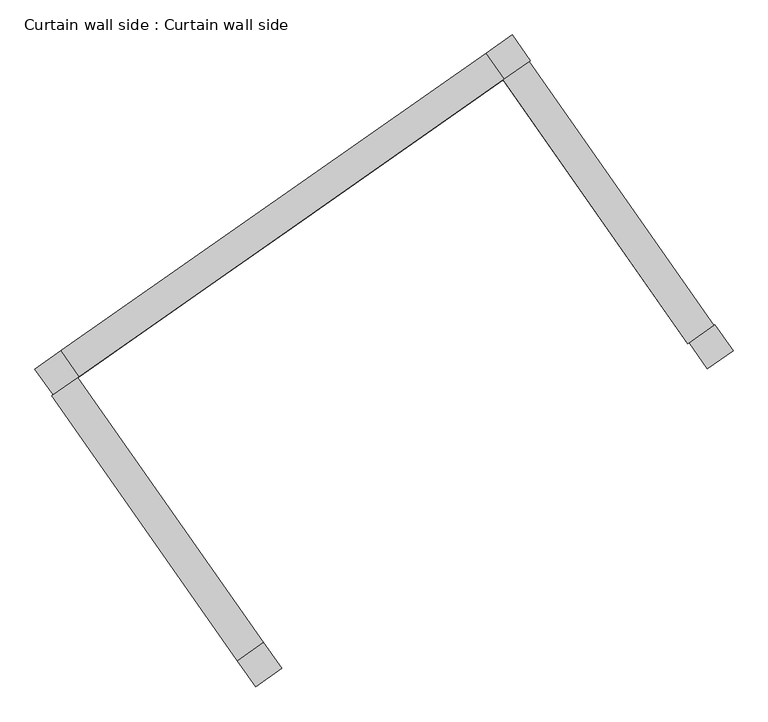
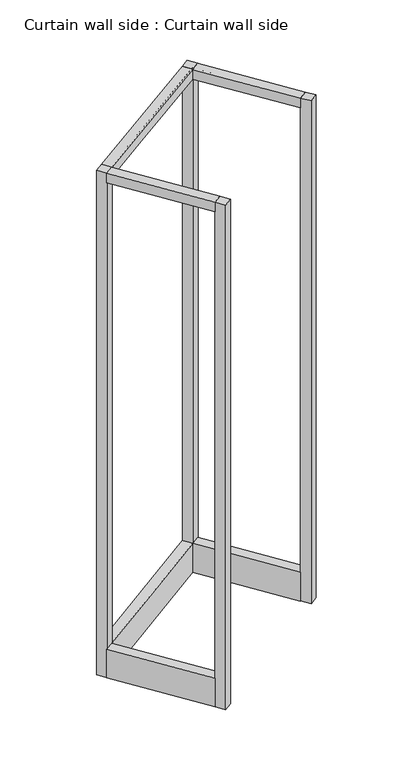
"""IFC4 building model written with IfcOpenShell, lengths in millimetres: furniture geometry, Curtain wall side : Curtain wall side."""

from ifc_helpers import new_model, si_unit, frame, origin, origin_with_axes, place, context, project, spatial, polyline, outline, extrude, faceted_brep, source, transform, mapped, element, save


def curtain_wall_side_curtain_wall_side_cf0fcddf(model_context):
    return source(origin(), model_context, "Body", "SolidModel", [
        extrude(outline(polyline([(-9976.9898235, 13033.7598694), (-9936.0322213, 13062.4386912), (-9642.9626534, 12643.891972), (-9683.9202556, 12615.2131501), (-9976.9898235, 13033.7598694)])), origin_with_axes(), (0.0, 0.0, 1.0), 150.0),
        extrude(outline(polyline([(-9264.1881249, 13532.868992), (-9223.2305226, 13561.5478138), (-8931.3840176, 13144.7478094), (-8972.3416198, 13116.0689876), (-9264.1881249, 13532.868992)])), origin_with_axes(), (0.0, 0.0, 1.0), 150.0),
        extrude(outline(polyline([(-9683.9202556, 12615.2131501), (-9976.9898235, 13033.7598694), (-9936.0322213, 13062.4386912), (-9642.9626534, 12643.891972), (-9683.9202556, 12615.2131501)])), frame((0.0, 0.0, 2585.9192237), z_axis=(0.0, 0.0, 1.0), x_axis=(1.0, 0.0, 0.0)), (0.0, 0.0, 1.0), 50.0),
        extrude(outline(polyline([(374.7078115, 0.0), (424.7078115, 0.0), (424.7137747, -508.818854), (374.7137747, -508.818854), (374.7078115, 0.0)])), frame((-9264.1881249, 13532.868992, 3000.0), z_axis=(0.8191520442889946, 0.5735764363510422, 0.0), x_axis=(0.0, 0.0, -1.0)), (0.0, 0.0, 1.0), 50.0),
        faceted_brep([(-9962.9928546, 13104.5993819, 0.0), (-9934.3140328, 13063.6417797, 0.0), (-9975.271635, 13034.9629579, 0.0), (-10003.9504568, 13075.9205601, 0.0), (-10003.9504568, 13075.9205601, 2635.1571155), (-9962.9928546, 13104.5993819, 2634.6109091), (-9975.271635, 13034.9629579, 150.0), (-9975.271635, 13034.9629579, 2585.9192237), (-9975.271635, 13034.9629579, 2635.1565295), (-9934.3140328, 13063.6417797, 150.0), (-9934.3140328, 13063.6417797, 2585.9192237), (-9934.3140328, 13063.6417797, 2634.6103232)], [[[0, 1, 2, 3]], [[0, 3, 4, 5]], [[3, 2, 6, 7, 8, 4]], [[2, 1, 9, 10, 11, 8, 7, 6]], [[1, 0, 5, 11, 10, 9]], [[5, 4, 8, 11]]]),
        faceted_brep([(-9250.191156, 13603.7085046, 0.0), (-9221.5123341, 13562.7509024, 0.0), (-9262.4699364, 13534.0720806, 0.0), (-9291.1487582, 13575.0296828, 0.0), (-9291.1487582, 13575.0296828, 2625.6512663), (-9250.191156, 13603.7085046, 2625.10506), (-9262.4699364, 13534.0720806, 150.0), (-9262.4699364, 13534.0720806, 2575.2921885), (-9262.4699364, 13534.0720806, 2625.2921885), (-9262.4699364, 13534.0720806, 2625.6506803), (-9221.5123341, 13562.7509024, 150.0), (-9221.5123341, 13562.7509024, 2575.2921885), (-9221.5123341, 13562.7509024, 2625.104474), (-9235.5882199, 13552.894861, 2625.2921885)], [[[0, 1, 2, 3]], [[0, 3, 4, 5]], [[3, 2, 6, 7, 8, 9, 4]], [[2, 1, 10, 11, 12, 13, 9, 8, 7, 6]], [[1, 0, 5, 12, 11, 10]], [[5, 4, 9, 13, 12]]]),
        faceted_brep([(-8929.6658291, 13145.9508979, 0.0), (-8900.9870073, 13104.9932957, 0.0), (-8941.9446095, 13076.3144739, 0.0), (-8970.6234313, 13117.2720761, 0.0), (-8970.6234313, 13117.2720761, 150.0), (-8970.6234313, 13117.2720761, 2575.2862253), (-8970.6234313, 13117.2720761, 2625.2862253), (-8970.6234313, 13117.2720761, 2625.644717), (-8943.7417149, 13136.0948566, 2625.2862253), (-8929.6658291, 13145.9508979, 2625.0985107), (-8929.6658291, 13145.9508979, 2575.2862253), (-8929.6658291, 13145.9508979, 150.0), (-8941.9446095, 13076.3144739, 2625.6441311), (-8900.9870073, 13104.9932957, 2625.0979247)], [[[0, 1, 2, 3]], [[0, 3, 4, 5, 6, 7, 8, 9, 10, 11]], [[3, 2, 12, 7, 6, 5, 4]], [[2, 1, 13, 12]], [[1, 0, 11, 10, 9, 13]], [[7, 12, 13, 9, 8]]]),
        faceted_brep([(-9642.9626534, 12643.891972, 0.0), (-9614.2838316, 12602.9343697, 0.0), (-9655.2414338, 12574.2555479, 0.0), (-9683.9202556, 12615.2131501, 0.0), (-9683.9202556, 12615.2131501, 150.0), (-9683.9202556, 12615.2131501, 2585.9192237), (-9683.9202556, 12615.2131501, 2635.1734548), (-9642.9626534, 12643.891972, 2634.6272485), (-9642.9626534, 12643.891972, 2585.9192237), (-9642.9626534, 12643.891972, 150.0), (-9655.2414338, 12574.2555479, 2635.1728688), (-9614.2838316, 12602.9343697, 2634.6266625)], [[[0, 1, 2, 3]], [[0, 3, 4, 5, 6, 7, 8, 9]], [[3, 2, 10, 6, 5, 4]], [[2, 1, 11, 10]], [[1, 0, 9, 8, 7, 11]], [[7, 6, 10, 11]]]),
        faceted_brep([(-9291.1487582, 13575.0296828, 0.0), (-9262.4699364, 13534.0720806, 0.0), (-9934.3140328, 13063.6417797, 0.0), (-9962.9928546, 13104.5993819, 0.0), (-9962.9928546, 13104.5993819, 150.0), (-9291.1487582, 13575.0296828, 150.0), (-9934.3140328, 13063.6417797, 150.0), (-9262.4699364, 13534.0720806, 150.0), (-9598.2949009, 13298.9249089, 150.0), (-9710.4963729, 13220.3605924, 150.0)], [[[0, 1, 2, 3]], [[0, 3, 4, 5]], [[3, 2, 6, 4]], [[2, 1, 7, 8, 9, 6]], [[1, 0, 5, 7]], [[5, 4, 6, 9, 8, 7]]]),
        faceted_brep([(-9291.1487582, 13575.0296828, 2576.1089576), (-9962.9928546, 13104.5993819, 2585.0686005), (-9962.9928546, 13104.5993819, 2634.6109091), (-9291.1487582, 13575.0296828, 2625.6512663), (-9934.3140328, 13063.6417797, 2585.0680145), (-9934.3140328, 13063.6417797, 2585.9192237), (-9934.3140328, 13063.6417797, 2634.6103232), (-9710.4963729, 13220.3605924, 2582.0832055), (-9262.4699364, 13534.0720806, 2576.1083716), (-9262.4699364, 13534.0720806, 2625.2921885), (-9262.4699364, 13534.0720806, 2625.6506803), (-9598.2949009, 13298.9249089, 2630.129207)], [[[0, 1, 2, 3]], [[1, 4, 5, 6, 2]], [[4, 7, 8, 9, 10, 11, 6, 5]], [[8, 0, 3, 10, 9]], [[1, 0, 8, 7, 4]], [[3, 2, 6, 11, 10]]]),
        faceted_brep([(-9943.6043377, 13064.6824241, 57.7276432), (-9646.9894101, 12641.0724065, 57.7276432), (-9667.4682112, 12626.7329956, 57.7276432), (-9978.4225497, 13070.8218143, 57.7276432), (-9253.4729905, 13578.4369605, 57.7276432), (-8943.7417149, 13136.0948566, 57.7276432), (-8964.220516, 13121.7554457, 57.7276432), (-9259.6123807, 13543.6187485, 57.7276432), (-9259.6123807, 13543.6187485, 2625.5653641), (-9943.6043377, 13064.6824241, 2634.6870096), (-9937.8979012, 13068.678114, 150.0), (-9937.8979012, 13068.678114, 2585.0686005), (-9266.0538047, 13539.1084148, 2576.1089576), (-9266.0538047, 13539.1084148, 150.0), (-8964.220516, 13121.7554457, 150.0), (-9256.0670211, 13538.5554501, 150.0), (-9256.0670211, 13538.5554501, 2575.2921885), (-8964.220516, 13121.7554457, 2575.2862253), (-8964.220516, 13121.7554457, 2625.2862253), (-9256.0670211, 13538.5554501, 2625.2921885), (-9256.0670211, 13538.5554501, 2625.5652917), (-8943.7417149, 13136.0948566, 150.0), (-8943.7417149, 13136.0948566, 2575.2862253), (-8943.7417149, 13136.0948566, 2625.2862253), (-9253.4729905, 13578.4369605, 2625.292554), (-9235.5882199, 13552.894861, 2625.2921885), (-9235.5882199, 13552.894861, 2575.2921885), (-9235.5882199, 13552.894861, 150.0), (-9978.4225497, 13070.8218143, 2634.9604057), (-9952.2153417, 13089.1722989, 2585.0686005), (-9952.2153417, 13089.1722989, 150.0), (-9280.3712452, 13559.6025998, 150.0), (-9280.3712452, 13559.6025998, 2576.1089576), (-9667.4682112, 12626.7329956, 150.0), (-9960.5377791, 13045.2797149, 150.0), (-9960.5377791, 13045.2797149, 2585.9192237), (-9667.4682112, 12626.7329956, 2585.9192237), (-9667.4682112, 12626.7329956, 2634.9540521), (-9646.9894101, 12641.0724065, 150.0), (-9646.9894101, 12641.0724065, 2634.6809489), (-9646.9894101, 12641.0724065, 2585.9192237), (-9940.058978, 13059.6191258, 2585.9192237), (-9940.058978, 13059.6191258, 150.0)], [[[0, 1, 2, 3, 4, 5, 6, 7]], [[0, 7, 8, 9], [10, 11, 12, 13]], [[7, 6, 14, 15, 16, 17, 18, 19, 20, 8]], [[6, 5, 21, 14]], [[18, 17, 22, 23]], [[5, 4, 24, 25, 23, 22, 26, 27, 21]], [[4, 3, 28, 24], [29, 30, 31, 32]], [[3, 2, 33, 34, 35, 36, 37, 28]], [[2, 1, 38, 33]], [[39, 37, 36, 40]], [[1, 0, 9, 39, 40, 41, 42, 38]], [[9, 8, 20, 25, 24, 28, 37, 39]], [[29, 11, 10, 30]], [[30, 10, 13, 31]], [[31, 13, 12, 32]], [[11, 29, 32, 12]], [[42, 34, 33, 38]], [[34, 42, 41, 35]], [[35, 41, 40, 36]], [[26, 16, 15, 27]], [[27, 15, 14, 21]], [[16, 26, 22, 17]], [[19, 25, 20]], [[25, 19, 18, 23]]]),
    ])


if __name__ == "__main__":
    model = new_model("IFC4")
    model_context = context("Model", 3, world=origin())
    ifc_project = project(units=[si_unit("LENGTHUNIT", "METRE", prefix="MILLI")], contexts=[model_context])
    site = spatial("IfcSite", under=ifc_project)
    building = spatial("IfcBuilding", under=site)
    placement = place(None, origin())
    curtain_wall_side_curtain_wall_side_shape = curtain_wall_side_curtain_wall_side_cf0fcddf(model_context)
    element("IfcFurniture", 1, ObjectType="Curtain wall side : Curtain wall side", at=placement, inside=building, context=model_context, shape_type="MappedRepresentation", body=[
        mapped(curtain_wall_side_curtain_wall_side_shape, transform((0.0, 0.0, 0.0), x_axis=(1.0, 0.0, 0.0), y_axis=(0.0, 1.0, 0.0), z_axis=(0.0, 0.0, 1.0))),
    ])
    save(model, "model.ifc")
